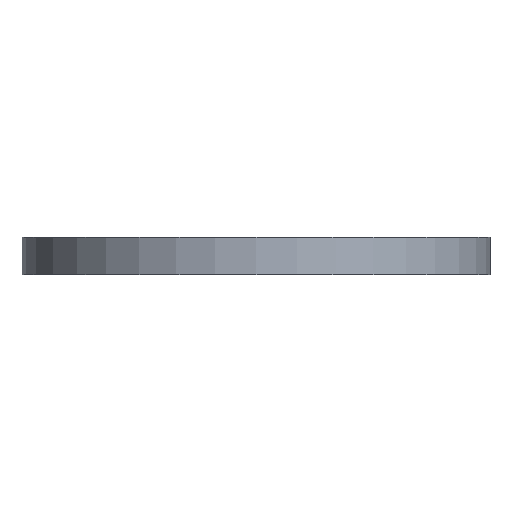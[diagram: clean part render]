
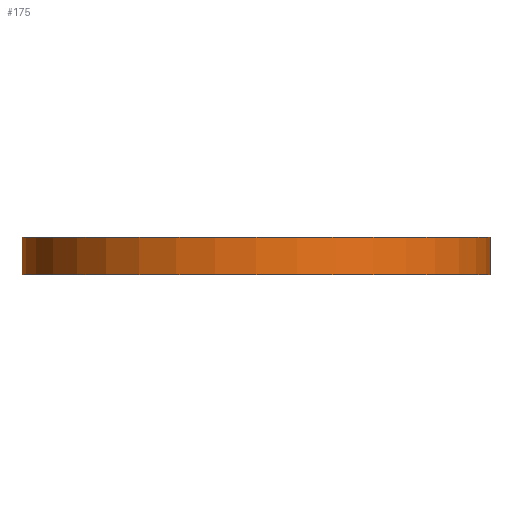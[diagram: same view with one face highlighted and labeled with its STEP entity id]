
A CAD part, front view. The second image highlights one B-rep face of the part: STEP entity #175.
In plain terms, the highlighted cylindrical face has radius 445 mm (diameter 890 mm), a partial arc.
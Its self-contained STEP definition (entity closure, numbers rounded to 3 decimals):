
#23 = AXIS2_PLACEMENT_3D ( 'NONE', #955, #954, #952 ) ;
#63 = DIRECTION ( 'NONE',  ( 1., 0., 0. ) ) ;
#64 = DIRECTION ( 'NONE',  ( 0., 0., 1. ) ) ;
#65 = CARTESIAN_POINT ( 'NONE',  ( 0., 0., -72. ) ) ;
#175 = ADVANCED_FACE ( 'NONE', ( #960 ), #958, .T. ) ;
#323 = DIRECTION ( 'NONE',  ( 1., 0., 0. ) ) ;
#325 = DIRECTION ( 'NONE',  ( 0., 0., 1. ) ) ;
#326 = CARTESIAN_POINT ( 'NONE',  ( 0., 0., 0. ) ) ;
#341 = VECTOR ( 'NONE', #765, 1000. ) ;
#364 = VERTEX_POINT ( 'NONE', #862 ) ;
#375 = CIRCLE ( 'NONE', #493, 445. ) ;
#386 = VECTOR ( 'NONE', #740, 1000. ) ;
#389 = CARTESIAN_POINT ( 'NONE',  ( 445., 0., -72. ) ) ;
#412 = CARTESIAN_POINT ( 'NONE',  ( 445., 0., 0. ) ) ;
#467 = CARTESIAN_POINT ( 'NONE',  ( -445., 0., 0. ) ) ;
#493 = AXIS2_PLACEMENT_3D ( 'NONE', #326, #325, #323 ) ;
#579 = EDGE_CURVE ( 'NONE', #364, #1171, #770, .T. ) ;
#637 = EDGE_CURVE ( 'NONE', #1267, #1231, #743, .T. ) ;
#740 = DIRECTION ( 'NONE',  ( 0., 0., 1. ) ) ;
#741 = CARTESIAN_POINT ( 'NONE',  ( 445., 0., -150. ) ) ;
#743 = LINE ( 'NONE', #741, #386 ) ;
#765 = DIRECTION ( 'NONE',  ( 0., 0., 1. ) ) ;
#767 = CARTESIAN_POINT ( 'NONE',  ( -445., 0., -150. ) ) ;
#770 = LINE ( 'NONE', #767, #341 ) ;
#835 = CIRCLE ( 'NONE', #1620, 445. ) ;
#862 = CARTESIAN_POINT ( 'NONE',  ( -445., 0., -72. ) ) ;
#952 = DIRECTION ( 'NONE',  ( 1., 0., 0. ) ) ;
#954 = DIRECTION ( 'NONE',  ( 0., 0., 1. ) ) ;
#955 = CARTESIAN_POINT ( 'NONE',  ( 0., 0., -150. ) ) ;
#958 = CYLINDRICAL_SURFACE ( 'NONE', #23, 445. ) ;
#960 = FACE_OUTER_BOUND ( 'NONE', #1277, .T. ) ;
#1171 = VERTEX_POINT ( 'NONE', #467 ) ;
#1231 = VERTEX_POINT ( 'NONE', #412 ) ;
#1267 = VERTEX_POINT ( 'NONE', #389 ) ;
#1277 = EDGE_LOOP ( 'NONE', ( #1493, #1494, #1495, #1496 ) ) ;
#1308 = EDGE_CURVE ( 'NONE', #1171, #1231, #375, .T. ) ;
#1493 = ORIENTED_EDGE ( 'NONE', *, *, #579, .F. ) ;
#1494 = ORIENTED_EDGE ( 'NONE', *, *, #1600, .T. ) ;
#1495 = ORIENTED_EDGE ( 'NONE', *, *, #637, .T. ) ;
#1496 = ORIENTED_EDGE ( 'NONE', *, *, #1308, .F. ) ;
#1600 = EDGE_CURVE ( 'NONE', #364, #1267, #835, .T. ) ;
#1620 = AXIS2_PLACEMENT_3D ( 'NONE', #65, #64, #63 ) ;
